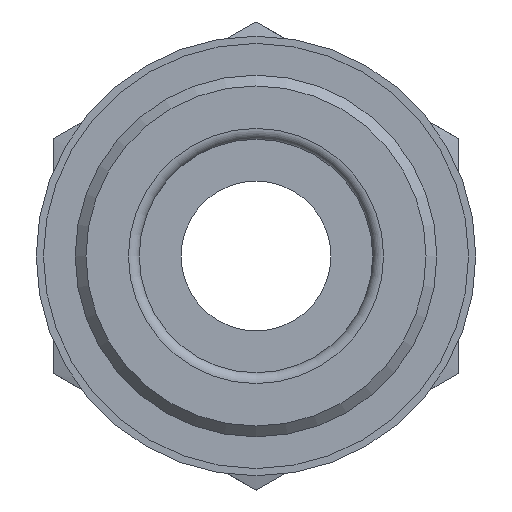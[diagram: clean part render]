
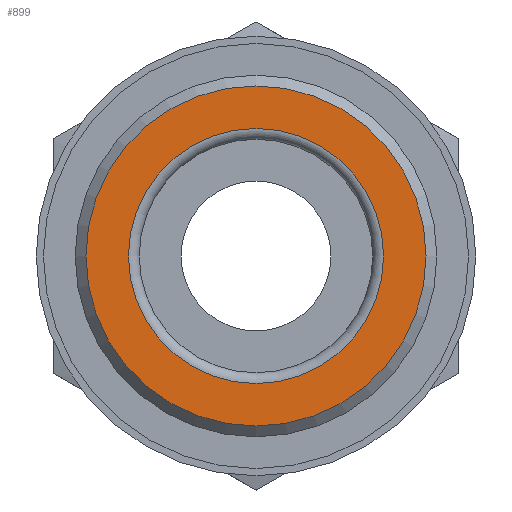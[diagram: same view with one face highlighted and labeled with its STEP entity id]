
A CAD part, left-side view. The second image highlights one B-rep face of the part: STEP entity #899.
In plain terms, the highlighted planar face has unit normal (-1, 0, 0).
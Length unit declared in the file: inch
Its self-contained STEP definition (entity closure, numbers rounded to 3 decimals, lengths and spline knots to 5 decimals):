
#21=PLANE('',#1011);
#135=CIRCLE('',#1012,0.354);
#136=CIRCLE('',#1013,0.472);
#256=ORIENTED_EDGE('',*,*,#490,.T.);
#257=ORIENTED_EDGE('',*,*,#491,.F.);
#490=EDGE_CURVE('',#589,#589,#135,.T.);
#491=EDGE_CURVE('',#590,#590,#136,.T.);
#589=VERTEX_POINT('',#1598);
#590=VERTEX_POINT('',#1600);
#691=EDGE_LOOP('',(#256));
#692=EDGE_LOOP('',(#257));
#785=FACE_BOUND('',#691,.T.);
#786=FACE_BOUND('',#692,.T.);
#899=ADVANCED_FACE('',(#785,#786),#21,.T.);
#1011=AXIS2_PLACEMENT_3D('',#1596,#1220,#1221);
#1012=AXIS2_PLACEMENT_3D('',#1597,#1222,#1223);
#1013=AXIS2_PLACEMENT_3D('',#1599,#1224,#1225);
#1220=DIRECTION('',(-1.,0.,0.));
#1221=DIRECTION('',(0.,0.,1.));
#1222=DIRECTION('',(1.,0.,0.));
#1223=DIRECTION('',(0.,0.,-1.));
#1224=DIRECTION('',(1.,0.,0.));
#1225=DIRECTION('',(0.,0.,-1.));
#1596=CARTESIAN_POINT('',(-0.03,0.472,0.));
#1597=CARTESIAN_POINT('',(-0.03,0.,0.));
#1598=CARTESIAN_POINT('',(-0.03,0.,-0.354));
#1599=CARTESIAN_POINT('',(-0.03,0.,0.));
#1600=CARTESIAN_POINT('',(-0.03,0.,-0.472));
